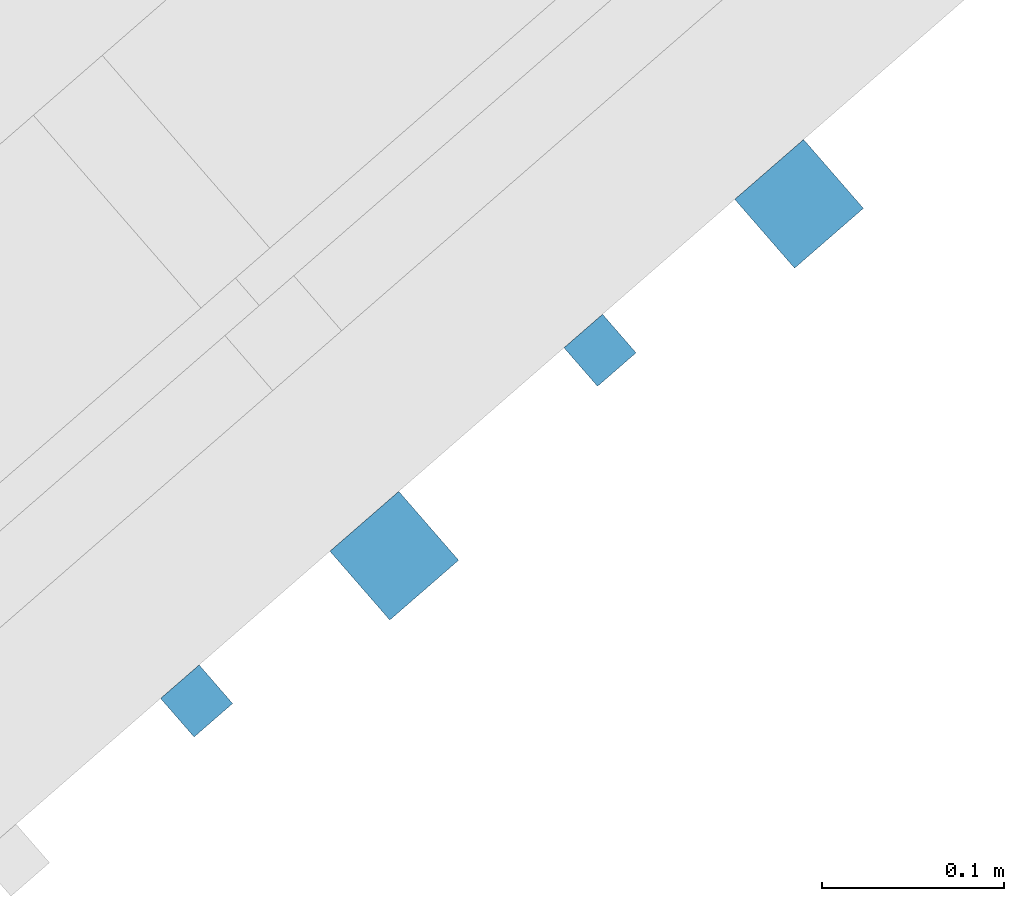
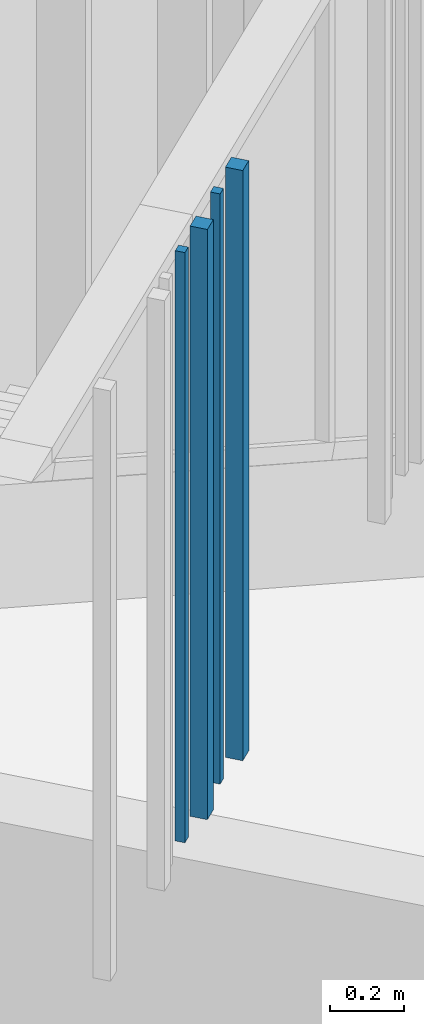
# One storey, part 34 of 124: 4 walls.
"""IFC2X3 building model written with IfcOpenShell, lengths in millimetres."""

from ifc_helpers import new_model, entity, si_unit, converted_unit, derived_unit, money_unit, direction, frame, origin_with_axes, place, context, subcontext, project, spatial, faceted_brep, material, type_object, element, save


model = new_model("IFC2X3")

# Units and contexts
model_context = context("Model", 3, precision=1e-05, world=origin_with_axes(), true_north=direction((0.0, 1.0)))
body_context = subcontext(model_context, "Body", "Model", "MODEL_VIEW")
ifc_project = project(units=[si_unit("LENGTHUNIT", "METRE", prefix="MILLI"), si_unit("AREAUNIT", "SQUARE_METRE"), si_unit("VOLUMEUNIT", "CUBIC_METRE"), converted_unit("PLANEANGLEUNIT", "DEGREE", entity("IfcPlaneAngleMeasure", 0.0174532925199), si_unit("PLANEANGLEUNIT", "RADIAN"), dimensions=[0, 0, 0, 0, 0, 0, 0]), si_unit("SOLIDANGLEUNIT", "STERADIAN"), money_unit("EUR"), converted_unit("TIMEUNIT", "Year", entity("IfcTimeMeasure", 31556926.0), si_unit("TIMEUNIT", "SECOND"), dimensions=[0, 0, 1, 0, 0, 0, 0]), si_unit("MASSUNIT", "GRAM", prefix="KILO"), si_unit("THERMODYNAMICTEMPERATUREUNIT", "DEGREE_CELSIUS"), si_unit("LUMINOUSINTENSITYUNIT", "LUMEN"), si_unit("ENERGYUNIT", "JOULE", prefix="MEGA"), derived_unit("THERMALCONDUCTANCEUNIT", [(si_unit("POWERUNIT", "WATT"), 1), (si_unit("LENGTHUNIT", "METRE"), -1), (si_unit("THERMODYNAMICTEMPERATUREUNIT", "KELVIN"), -1)]), derived_unit("SPECIFICHEATCAPACITYUNIT", [(si_unit("ENERGYUNIT", "JOULE"), 1), (si_unit("MASSUNIT", "GRAM", prefix="KILO"), -1), (si_unit("THERMODYNAMICTEMPERATUREUNIT", "KELVIN"), -1)]), derived_unit("MASSDENSITYUNIT", [(si_unit("MASSUNIT", "GRAM", prefix="KILO"), 1), (si_unit("VOLUMEUNIT", "CUBIC_METRE"), -1)])], contexts=[model_context])

# Site, building, storey
site_placement = place(None, origin_with_axes())
site = spatial("IfcSite", under=ifc_project, at=site_placement, Name="Site", CompositionType="ELEMENT")
building_placement = place(site_placement, origin_with_axes())
building = spatial("IfcBuilding", under=site, at=building_placement, Name="Building", CompositionType="ELEMENT")
storey_placement = place(building_placement, frame((0.0, 0.0, -1615.0), z_axis=(0.0, 0.0, 1.0), x_axis=(1.0, 0.0, 0.0)))
storey = spatial("IfcBuildingStorey", under=building, at=storey_placement, Name="0  korrus", CompositionType="ELEMENT", Elevation=-1615.0)

# Walls
ifc_material = material(Name="Site specified")
wall_type = type_object("IfcWallType", Name="Puitfassaadi ribistik", PredefinedType="NOTDEFINED")
for number, where, z_axis, x_axis, name in (
    (1, (151619.074688, 76445.6426223, 9530.0), (0.0, 0.0, 1.0), (-0.754709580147, -0.656059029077, 0.0), "Site specified"),
    (2, (151397.944802, 76253.4173458, 9530.0), (0.0, 0.0, 1.0), (-0.754709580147, -0.656059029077, 0.0), "Site specified"),
):
    element("IfcWall", number, at=place(storey_placement, frame(where, z_axis=z_axis, x_axis=x_axis)), inside=storey, type_object=wall_type, material=ifc_material, Name=name, context=body_context, shape_type="Brep", body=[
        faceted_brep([(14.0, 14.0, 1950.0), (14.0, 14.0, 0.0), (-14.0, 14.0, 0.0), (-14.0, 14.0, 1950.0), (14.0, -14.0, 1950.0), (14.0, -14.0, 0.0), (-14.0, -14.0, 0.0), (-14.0, -14.0, 1950.0)], [[[0, 1, 2, 3]], [[4, 5, 1, 0]], [[2, 1, 5, 6]], [[3, 2, 6, 7]], [[4, 0, 3, 7]], [[7, 6, 5, 4]]]),
    ])
for number, where, z_axis, x_axis, name in (
    (3, (151728.17901, 76525.9104198, 9530.0), (0.0, 0.0, 1.0), (-0.754709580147, -0.656059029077, 0.0), "Site specified"),
    (4, (151506.294395, 76333.0290667, 9530.0), (0.0, 0.0, 1.0), (-0.754709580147, -0.656059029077, 0.0), "Site specified"),
):
    element("IfcWall", number, at=place(storey_placement, frame(where, z_axis=z_axis, x_axis=x_axis)), inside=storey, type_object=wall_type, material=ifc_material, Name=name, context=body_context, shape_type="Brep", body=[
        faceted_brep([(25.0, 25.0, 1950.0), (25.0, 25.0, 0.0), (-25.0, 25.0, 0.0), (-25.0, 25.0, 1950.0), (25.0, -25.0, 1950.0), (25.0, -25.0, 0.0), (-25.0, -25.0, 0.0), (-25.0, -25.0, 1950.0)], [[[0, 1, 2, 3]], [[4, 5, 1, 0]], [[2, 1, 5, 6]], [[3, 2, 6, 7]], [[4, 0, 3, 7]], [[7, 6, 5, 4]]]),
    ])

save(model, "model.ifc")
